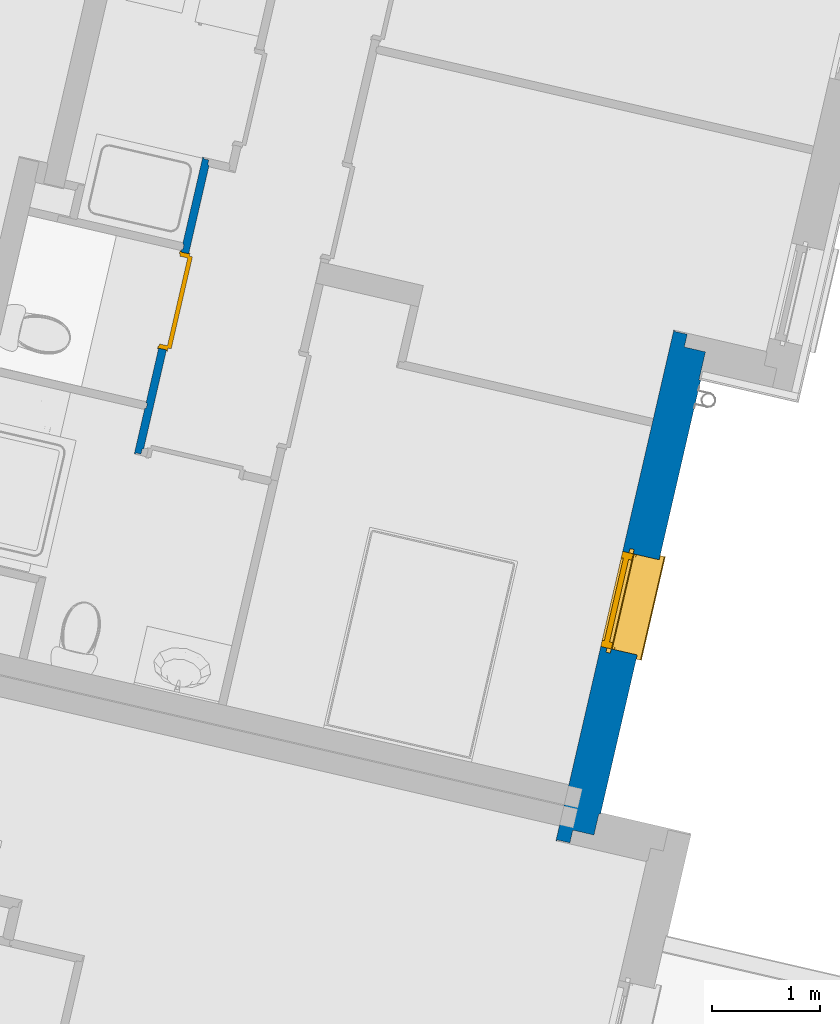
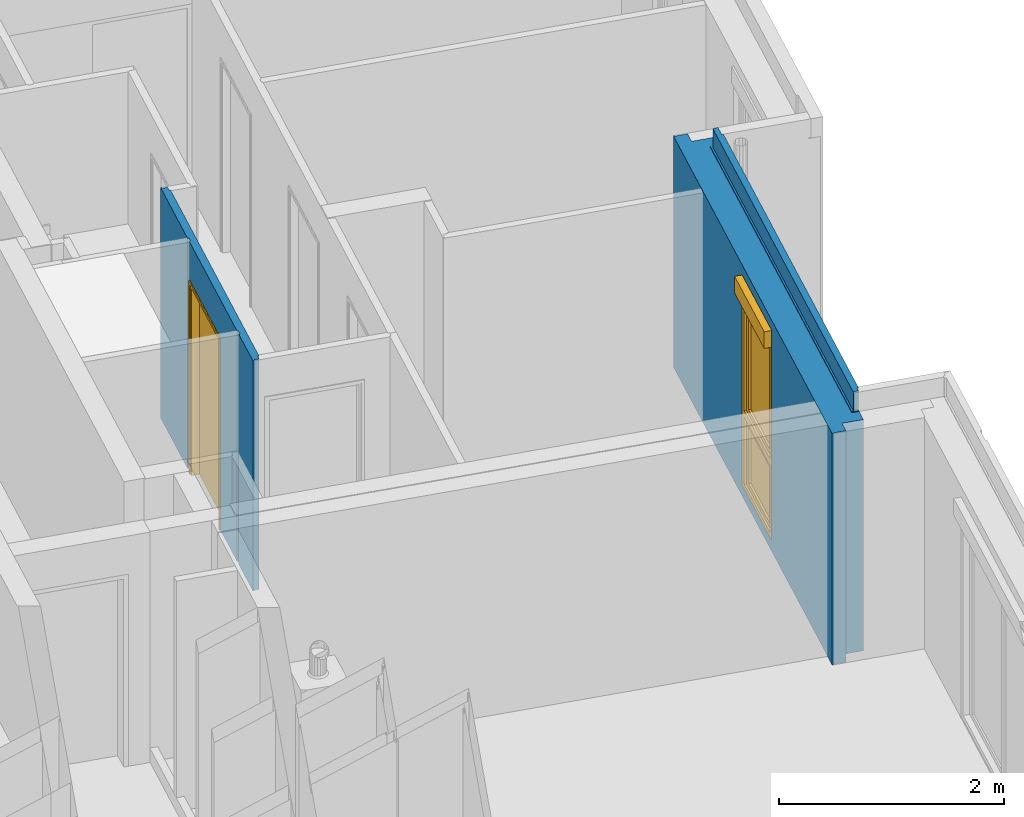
# One storey, part 27 of 91: 2 walls, 1 door, 1 window, 2 openings.
"""IFC2X3 building model written with IfcOpenShell, lengths in metres."""

from ifc_helpers import new_model, entity, si_unit, converted_unit, derived_unit, money_unit, direction, frame, origin_with_axes, place, context, subcontext, project, spatial, open_shell, faceted_brep, surface_model, source, transform, mapped, material, material_list, type_object, element, fill, save


model = new_model("IFC2X3")

# Units and contexts
model_context = context("Model", 3, precision=1e-05, world=origin_with_axes(), true_north=direction((0.0, 1.0)))
body_context = subcontext(model_context, "Body", "Model", "MODEL_VIEW")
ifc_project = project(units=[si_unit("LENGTHUNIT", "METRE"), si_unit("AREAUNIT", "SQUARE_METRE"), si_unit("VOLUMEUNIT", "CUBIC_METRE"), converted_unit("PLANEANGLEUNIT", "DEGREE", entity("IfcPlaneAngleMeasure", 0.0174532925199), si_unit("PLANEANGLEUNIT", "RADIAN"), dimensions=[0, 0, 0, 0, 0, 0, 0]), si_unit("SOLIDANGLEUNIT", "STERADIAN"), money_unit("EUR"), converted_unit("TIMEUNIT", "Year", entity("IfcTimeMeasure", 31556926.0), si_unit("TIMEUNIT", "SECOND"), dimensions=[0, 0, 1, 0, 0, 0, 0]), si_unit("MASSUNIT", "GRAM", prefix="KILO"), si_unit("THERMODYNAMICTEMPERATUREUNIT", "DEGREE_CELSIUS"), si_unit("LUMINOUSINTENSITYUNIT", "LUMEN"), si_unit("ENERGYUNIT", "JOULE", prefix="MEGA"), derived_unit("THERMALCONDUCTANCEUNIT", [(si_unit("POWERUNIT", "WATT"), 1), (si_unit("LENGTHUNIT", "METRE"), -1), (si_unit("THERMODYNAMICTEMPERATUREUNIT", "KELVIN"), -1)]), derived_unit("SPECIFICHEATCAPACITYUNIT", [(si_unit("ENERGYUNIT", "JOULE"), 1), (si_unit("MASSUNIT", "GRAM", prefix="KILO"), -1), (si_unit("THERMODYNAMICTEMPERATUREUNIT", "KELVIN"), -1)]), derived_unit("MASSDENSITYUNIT", [(si_unit("MASSUNIT", "GRAM", prefix="KILO"), 1), (si_unit("VOLUMEUNIT", "CUBIC_METRE"), -1)])], contexts=[model_context])

# Site, building, storey
site_placement = place(None, origin_with_axes())
site = spatial("IfcSite", under=ifc_project, at=site_placement, Name="Site", CompositionType="ELEMENT")
building_placement = place(site_placement, origin_with_axes())
building = spatial("IfcBuilding", under=site, at=building_placement, Name="Bâtiment", CompositionType="ELEMENT")
storey_placement = place(building_placement, frame((0.0, 0.0, 5.44), z_axis=(0.0, 0.0, 1.0), x_axis=(1.0, 0.0, 0.0)))
storey = spatial("IfcBuildingStorey", under=building, at=storey_placement, Name="R+2", CompositionType="ELEMENT", Elevation=5.44)

# Wall, opening, window
ifc_material_1 = material(Name="Finition ext - Crépis")
ifc_material_2 = material(Name="Béton cellulaire")
ifc_material_3 = material(Name="Mortier")
ifc_material_4 = material(Name="Isolation - Polystyrène expansé")
ifc_material_5 = material(Name="Bloc ELITHERM")
ifc_material_6 = material(Name="Isolation - Polystyrène extrudé")
ifc_material_7 = material(Name="Finition int - Plaque de plâtre")
ifc_material_list_1 = material_list([ifc_material_1, ifc_material_2, ifc_material_3, ifc_material_4, ifc_material_5, ifc_material_6, ifc_material_7])
wall_type_1 = type_object("IfcWallType", Name="Mur ALKERN + planelle 21 345 x 2720", PredefinedType="USERDEFINED")
wall_1_placement = place(storey_placement, frame((-1.12675166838, 6.60234837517, 0.0), z_axis=(0.0, 0.0, 1.0), x_axis=(-0.224876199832, -0.974387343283, 0.0)))
wall_1 = element("IfcWall", 1, at=wall_1_placement, inside=storey, type_object=wall_type_1, material=ifc_material_list_1, Name="Mue bloc ALKERN isolé", ObjectType="SOLIDWALL", context=body_context, shape_type="Brep", body=[
    faceted_brep([(1.73344371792, -0.0149999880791, 0.12), (1.73344371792, -0.0149999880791, 0.06), (1.73344371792, 0.0, 0.06), (1.73344371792, 0.0, 0.12), (1.73344371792, 0.0, 2.22), (1.73344371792, -0.0149999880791, 2.22), (0.0349999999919, -0.0149999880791, 0.0), (4.14099999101, -0.0149999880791, 0.0), (4.14099999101, -0.0149999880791, 2.72), (0.0349999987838, -0.0149999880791, 2.72000000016), (2.63344371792, -0.0149999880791, 2.22), (2.63344371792, -0.0149999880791, 0.12), (2.63344371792, -0.0149999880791, 0.06), (2.63344371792, 0.0, 0.06), (4.14099999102, 0.0, 0.0), (0.035, 0.0, 0.0), (0.0349999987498, 0.0, 2.72000000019), (4.14099999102, 0.0, 2.72), (2.63344371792, 0.0, 0.12), (2.63344371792, 0.0, 2.22)], [[[0, 1, 2, 3, 4, 5]], [[6, 7, 8, 9], [1, 0, 5, 10, 11, 12]], [[13, 2, 1, 12]], [[14, 15, 16, 17], [13, 18, 19, 4, 3, 2]], [[19, 10, 5, 4]], [[15, 14, 7, 6]], [[8, 7, 14, 17]], [[9, 8, 17, 16]], [[16, 15, 6, 9]], [[18, 13, 12, 11, 10, 19]]]),
    faceted_brep([(-0.0780000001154, -0.015, 2.51999998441), (-0.0780000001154, -0.015, 2.72000000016), (4.18899999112, -0.015, 2.72), (4.18899999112, -0.015, 2.51999999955), (-0.0780000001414, -0.0629999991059, 2.72000000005), (-0.0780000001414, -0.0629999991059, 2.51999998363), (4.1889999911, -0.0629999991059, 2.72), (4.1889999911, -0.0629999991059, 2.51999999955)], [[[0, 1, 2, 3]], [[4, 1, 0, 5]], [[1, 4, 6, 2]], [[3, 2, 6, 7]], [[5, 0, 3, 7]], [[4, 5, 7, 6]]]),
    faceted_brep([(-0.0980000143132, -0.015, 2.51000000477), (-0.0980000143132, -0.015, 2.51999998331), (4.2089999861, -0.015, 2.51999998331), (4.2089999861, -0.015, 2.51000000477), (-0.09800001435, -0.083, 2.51000000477), (-0.09800001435, -0.083, 2.51999998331), (4.20899998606, -0.083, 2.51999998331), (4.20899998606, -0.083, 2.51000000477)], [[[0, 1, 2, 3]], [[1, 0, 4, 5]], [[1, 5, 6, 2]], [[3, 2, 6, 7]], [[4, 0, 3, 7]], [[5, 4, 7, 6]]]),
    faceted_brep([(-0.0610619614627, -0.0630000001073, 2.51999998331), (-0.0610619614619, -0.0630000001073, 2.72), (4.20899998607, -0.0630000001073, 2.72), (4.20899998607, -0.0630000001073, 2.51999998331), (-0.0610619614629, -0.0649033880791, 2.72), (-0.0610619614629, -0.0649033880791, 2.51999998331), (4.20899998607, -0.0649033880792, 2.72), (4.20899998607, -0.0649033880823, 2.51999998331)], [[[0, 1, 2, 3]], [[4, 1, 0, 5]], [[4, 6, 2, 1]], [[6, 7, 3, 2]], [[5, 0, 3, 7]], [[6, 4, 5, 7]]]),
    faceted_brep([(1.73344371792, -0.214999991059, 0.12), (1.73344371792, -0.214999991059, 0.06), (1.73344371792, -0.015, 0.06), (1.73344371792, -0.015, 0.12), (1.73344371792, -0.015, 2.22), (1.73344371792, -0.214999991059, 2.22), (4.34100000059, -0.214999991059, 0.0), (4.34100000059, -0.214999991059, 2.51), (-0.230000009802, -0.214999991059, 2.51000000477), (-0.230000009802, -0.214999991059, 0.0), (2.63344371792, -0.214999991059, 2.22), (2.63344371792, -0.214999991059, 0.12), (2.63344371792, -0.214999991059, 0.06), (2.63344371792, -0.015, 0.06), (4.3410000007, -0.015, 2.51), (4.3410000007, -0.015, 0.0), (-0.230000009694, -0.015, 0.0), (-0.230000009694, -0.015, 2.51000000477), (2.63344371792, -0.015, 0.12), (2.63344371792, -0.015, 2.22), (4.34100000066, -0.0829999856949, 2.51), (-0.230000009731, -0.0829999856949, 2.51000000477)], [[[0, 1, 2, 3, 4, 5]], [[6, 7, 8, 9], [1, 0, 5, 10, 11, 12]], [[13, 2, 1, 12]], [[14, 15, 16, 17], [13, 18, 19, 4, 3, 2]], [[19, 10, 5, 4]], [[6, 15, 14, 20, 7]], [[7, 20, 21, 8]], [[8, 21, 17, 16, 9]], [[15, 6, 9, 16]], [[18, 13, 12, 11, 10, 19]], [[20, 14, 17, 21]]]),
    faceted_brep([(1.73344371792, -0.286, 0.12), (1.73344371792, -0.286, 0.06), (1.73344371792, -0.215000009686, 0.06), (1.73344371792, -0.215000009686, 0.12), (1.73344371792, -0.215, 2.22), (1.73344371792, -0.215, 2.4), (1.73344371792, -0.335000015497, 2.4), (1.73344371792, -0.335000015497, 2.22), (1.73344371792, -0.335000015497, 0.12), (2.63344371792, -0.286, 0.12), (2.63344371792, -0.286, 0.06), (2.63344371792, -0.215000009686, 0.06), (4.4610000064, -0.215000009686, 0.0), (-0.350000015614, -0.215000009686, 0.0), (-0.350000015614, -0.215000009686, 2.51000000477), (4.4610000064, -0.215000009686, 2.51), (2.63344371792, -0.215000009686, 0.12), (2.63344371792, -0.215, 2.22), (2.63344371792, -0.215, 2.4), (2.63344371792, -0.335000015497, 2.4), (4.46100000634, -0.335000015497, 2.51), (-0.350000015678, -0.335000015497, 2.51000000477), (-0.350000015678, -0.335000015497, 0.0), (4.46100000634, -0.335000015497, 0.0), (2.63344371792, -0.335000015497, 2.22), (2.63344371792, -0.335000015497, 0.12)], [[[0, 1, 2, 3, 4, 5, 6, 7, 8]], [[0, 9, 10, 1]], [[11, 2, 1, 10]], [[12, 13, 14, 15], [11, 16, 17, 18, 5, 4, 3, 2]], [[18, 19, 6, 5]], [[20, 21, 22, 23], [8, 7, 6, 19, 24, 25]], [[9, 0, 8, 25]], [[16, 11, 10, 9, 25, 24, 19, 18, 17]], [[23, 22, 13, 12]], [[22, 21, 14, 13]], [[15, 14, 21, 20]], [[23, 12, 15, 20]]]),
    faceted_brep([(-0.359999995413, -0.335000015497, 2.51000000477), (4.47099996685, -0.335000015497, 2.51000000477), (4.47099996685, -0.335000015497, 0.0), (-0.359999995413, -0.335000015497, 0.0), (2.63344371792, -0.335000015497, 2.22), (2.63344371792, -0.335000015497, 2.4), (1.73344371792, -0.335000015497, 2.4), (1.73344371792, -0.335000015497, 2.22), (1.73344371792, -0.335000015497, 0.12), (2.63344371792, -0.335000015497, 0.12), (-0.359999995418, -0.34499998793, 2.51000000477), (4.47099996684, -0.34499998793, 2.51000000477), (4.47099996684, -0.34499998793, 0.0), (-0.359999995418, -0.34499998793, 0.0), (2.63344371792, -0.34499998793, 2.22), (2.63344371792, -0.34499998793, 2.4), (1.73344371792, -0.34499998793, 2.4), (1.73344371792, -0.34499998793, 2.22), (1.73344371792, -0.34499998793, 0.12), (2.63344371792, -0.34499998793, 0.12)], [[[0, 1, 2, 3], [4, 5, 6, 7, 8, 9]], [[10, 11, 1, 0]], [[1, 11, 12, 2]], [[3, 2, 12, 13]], [[0, 3, 13, 10]], [[5, 4, 14, 15]], [[6, 5, 15, 16]], [[7, 6, 16, 17]], [[7, 17, 18, 8]], [[8, 18, 19, 9]], [[14, 4, 9, 19]], [[13, 12, 11, 10], [15, 14, 19, 18, 17, 16]]]),
])
opening_1_placement = place(wall_1_placement, frame((2.18344371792, 0.0, 0.12), z_axis=(0.0, 0.0, 1.0), x_axis=(1.0, 0.0, 0.0)))
opening_1 = element("IfcOpeningElement", 2, at=opening_1_placement, cuts=wall_1, Name="MEN 67", context=body_context, shape_type="Brep", body=[
    faceted_brep([(0.45, -0.83499998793, 0.0), (-0.45, -0.83499998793, 0.0), (-0.45, -0.245, 0.0), (0.45, -0.245, 0.0), (0.45, -0.83499998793, 2.1), (-0.45, -0.83499998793, 2.1), (-0.45, -0.245, 2.1), (0.45, -0.245, 2.1)], [[[0, 1, 2, 3]], [[0, 4, 5, 1]], [[1, 5, 6, 2]], [[3, 2, 6, 7]], [[4, 0, 3, 7]], [[5, 4, 7, 6]]]),
    faceted_brep([(0.45, 0.34499998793, 0.0), (0.45, 0.34499998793, 2.1), (0.45, -0.245, 2.1), (0.45, -0.245, 0.0), (-0.45, 0.34499998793, 0.0), (-0.45, 0.34499998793, 2.1), (-0.45, -0.245, 2.1), (-0.45, -0.245, 0.0)], [[[0, 1, 2, 3]], [[0, 4, 5, 1]], [[1, 5, 6, 2]], [[3, 2, 6, 7]], [[4, 0, 3, 7]], [[5, 4, 7, 6]]]),
    faceted_brep([(0.45, 0.34499998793, 0.0), (0.45, 0.34499998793, 2.1), (0.45, -0.245, 2.1), (0.45, -0.245, 0.0), (-0.45, 0.34499998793, 0.0), (-0.45, 0.34499998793, 2.1), (-0.45, -0.245, 2.1), (-0.45, -0.245, 0.0)], [[[0, 1, 2, 3]], [[0, 4, 5, 1]], [[1, 5, 6, 2]], [[3, 2, 6, 7]], [[4, 0, 3, 7]], [[5, 4, 7, 6]]]),
    faceted_brep([(0.45, -0.80499998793, 2.1), (-0.45, -0.80499998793, 2.1), (-0.45, -0.215, 2.1), (0.45, -0.215, 2.1), (0.45, -0.80499998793, 2.28), (-0.45, -0.80499998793, 2.28), (-0.45, -0.215, 2.28), (0.45, -0.215, 2.28)], [[[0, 1, 2, 3]], [[0, 4, 5, 1]], [[1, 5, 6, 2]], [[3, 2, 6, 7]], [[4, 0, 3, 7]], [[5, 4, 7, 6]]]),
    faceted_brep([(0.45, 0.30399998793, 0.0), (-0.45, 0.30399998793, 0.0), (-0.45, -0.286, 0.0), (0.45, -0.286, 0.0), (0.45, 0.30399998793, -0.06), (-0.45, 0.30399998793, -0.06), (-0.45, -0.286, -0.06), (0.45, -0.286, -0.06)], [[[0, 1, 2, 3]], [[0, 4, 5, 1]], [[1, 5, 6, 2]], [[3, 2, 6, 7]], [[4, 0, 3, 7]], [[5, 4, 7, 6]]]),
])
window_style = type_object("IfcWindowStyle", Name="Baie générique 2017 v2", ConstructionType="NOTDEFINED", OperationType="NOTDEFINED", ParameterTakesPrecedence=False, Sizeable=False)
shared_shape_1 = source(origin_with_axes(), body_context, "Body", "SurfaceModel", [
    faceted_brep([(-0.45, 0.0, 2.1), (-0.45, 0.0, 0.0), (0.45, 0.0, 0.0), (0.45, 0.0, 2.1), (0.39, 0.0, 0.85), (-0.39, 0.0, 0.85), (-0.39, 0.0, 2.05), (0.39, 0.0, 2.05), (0.39, 0.0, 0.78), (0.39, 0.0, 0.05), (-0.39, 0.0, 0.05), (-0.39, 0.0, 0.78), (-0.45, 0.1, 2.1), (-0.45, 0.1, 0.0), (0.45, 0.1, 0.0), (0.45, 0.1, 2.1), (0.39, 0.1, 0.85), (-0.39, 0.1, 0.85), (-0.39, 0.1, 2.05), (0.39, 0.1, 2.05), (0.39, 0.1, 0.78), (0.39, 0.1, 0.05), (-0.39, 0.1, 0.05), (-0.39, 0.1, 0.78)], [[[0, 1, 2, 3], [4, 5, 6, 7], [8, 9, 10, 11]], [[0, 12, 13, 1]], [[1, 13, 14, 2]], [[2, 14, 15, 3]], [[3, 15, 12, 0]], [[4, 16, 17, 5]], [[5, 17, 18, 6]], [[6, 18, 19, 7]], [[16, 4, 7, 19]], [[8, 20, 21, 9]], [[9, 21, 22, 10]], [[23, 11, 10, 22]], [[20, 8, 11, 23]], [[14, 13, 12, 15], [16, 19, 18, 17], [20, 23, 22, 21]]]),
    faceted_brep([(0.39, 0.08, 2.05), (0.39, 0.08, 0.85), (-0.39, 0.08, 0.85), (-0.39, 0.08, 2.05), (0.32, 0.08, 1.98), (-0.32, 0.08, 1.98), (-0.32, 0.08, 0.9), (0.32, 0.08, 0.9), (0.39, 0.03, 2.05), (0.39, 0.03, 0.85), (-0.39, 0.03, 0.85), (-0.39, 0.03, 2.05), (0.32, 0.03, 1.98), (-0.32, 0.03, 1.98), (-0.32, 0.03, 0.9), (0.32, 0.03, 0.9)], [[[0, 1, 2, 3], [4, 5, 6, 7]], [[1, 0, 8, 9]], [[10, 2, 1, 9]], [[11, 3, 2, 10]], [[0, 3, 11, 8]], [[5, 4, 12, 13]], [[14, 6, 5, 13]], [[15, 7, 6, 14]], [[4, 7, 15, 12]], [[11, 10, 9, 8], [15, 14, 13, 12]]]),
    surface_model("IfcShellBasedSurfaceModel", [(-0.39, 0.08, 0.85), (-0.39, 0.055, 0.85), (-0.39, 0.055, 2.05), (-0.39, 0.08, 2.05)], [open_shell([[[0, 1, 2, 3]]])]),
    surface_model("IfcShellBasedSurfaceModel", [(0.39, 0.08, 0.85), (0.39, 0.055, 0.85), (0.39, 0.055, 2.05), (0.39, 0.08, 2.05)], [open_shell([[[0, 1, 2, 3]]])]),
    surface_model("IfcShellBasedSurfaceModel", [(-0.39, 0.08, 0.85), (-0.39, 0.055, 0.85), (0.39, 0.055, 0.85), (0.39, 0.08, 0.85)], [open_shell([[[0, 1, 2, 3]]])]),
    surface_model("IfcShellBasedSurfaceModel", [(-0.39, 0.08, 2.05), (-0.39, 0.055, 2.05), (0.39, 0.055, 2.05), (0.39, 0.08, 2.05)], [open_shell([[[0, 1, 2, 3]]])]),
    surface_model("IfcShellBasedSurfaceModel", [(-0.39, 0.055, 0.85), (-0.39, 0.03, 0.85), (-0.39, 0.03, 2.05), (-0.39, 0.055, 2.05)], [open_shell([[[0, 1, 2, 3]]])]),
    surface_model("IfcShellBasedSurfaceModel", [(0.39, 0.055, 0.85), (0.39, 0.03, 0.85), (0.39, 0.03, 2.05), (0.39, 0.055, 2.05)], [open_shell([[[0, 1, 2, 3]]])]),
    surface_model("IfcShellBasedSurfaceModel", [(-0.39, 0.055, 0.85), (-0.39, 0.03, 0.85), (0.39, 0.03, 0.85), (0.39, 0.055, 0.85)], [open_shell([[[0, 1, 2, 3]]])]),
    surface_model("IfcShellBasedSurfaceModel", [(-0.39, 0.055, 2.05), (-0.39, 0.03, 2.05), (0.39, 0.03, 2.05), (0.39, 0.055, 2.05)], [open_shell([[[0, 1, 2, 3]]])]),
    faceted_brep([(-0.32, 0.0575, 0.9), (0.32, 0.0575, 0.9), (0.32, 0.0525, 0.9), (-0.32, 0.0525, 0.9), (-0.32, 0.0575, 1.98), (0.32, 0.0575, 1.98), (0.32, 0.0525, 1.98), (-0.32, 0.0525, 1.98)], [[[0, 1, 2, 3]], [[0, 4, 5, 1]], [[1, 5, 6, 2]], [[3, 2, 6, 7]], [[4, 0, 3, 7]], [[5, 4, 7, 6]]]),
    faceted_brep([(0.39, 0.08, 0.78), (0.39, 0.08, 0.05), (-0.39, 0.08, 0.05), (-0.39, 0.08, 0.78), (0.32, 0.08, 0.71), (-0.32, 0.08, 0.71), (-0.32, 0.08, 0.1), (0.32, 0.08, 0.1), (0.39, 0.03, 0.78), (0.39, 0.03, 0.05), (-0.39, 0.03, 0.05), (-0.39, 0.03, 0.78), (0.32, 0.03, 0.71), (-0.32, 0.03, 0.71), (-0.32, 0.03, 0.1), (0.32, 0.03, 0.1)], [[[0, 1, 2, 3], [4, 5, 6, 7]], [[1, 0, 8, 9]], [[10, 2, 1, 9]], [[11, 3, 2, 10]], [[0, 3, 11, 8]], [[5, 4, 12, 13]], [[14, 6, 5, 13]], [[15, 7, 6, 14]], [[4, 7, 15, 12]], [[11, 10, 9, 8], [15, 14, 13, 12]]]),
    surface_model("IfcShellBasedSurfaceModel", [(-0.39, 0.08, 0.05), (-0.39, 0.055, 0.05), (-0.39, 0.055, 0.78), (-0.39, 0.08, 0.78)], [open_shell([[[0, 1, 2, 3]]])]),
    surface_model("IfcShellBasedSurfaceModel", [(0.39, 0.08, 0.05), (0.39, 0.055, 0.05), (0.39, 0.055, 0.78), (0.39, 0.08, 0.78)], [open_shell([[[0, 1, 2, 3]]])]),
    surface_model("IfcShellBasedSurfaceModel", [(-0.39, 0.08, 0.05), (-0.39, 0.055, 0.05), (0.39, 0.055, 0.05), (0.39, 0.08, 0.05)], [open_shell([[[0, 1, 2, 3]]])]),
    surface_model("IfcShellBasedSurfaceModel", [(-0.39, 0.08, 0.78), (-0.39, 0.055, 0.78), (0.39, 0.055, 0.78), (0.39, 0.08, 0.78)], [open_shell([[[0, 1, 2, 3]]])]),
    surface_model("IfcShellBasedSurfaceModel", [(-0.39, 0.055, 0.05), (-0.39, 0.03, 0.05), (-0.39, 0.03, 0.78), (-0.39, 0.055, 0.78)], [open_shell([[[0, 1, 2, 3]]])]),
    surface_model("IfcShellBasedSurfaceModel", [(0.39, 0.055, 0.05), (0.39, 0.03, 0.05), (0.39, 0.03, 0.78), (0.39, 0.055, 0.78)], [open_shell([[[0, 1, 2, 3]]])]),
    surface_model("IfcShellBasedSurfaceModel", [(-0.39, 0.055, 0.05), (-0.39, 0.03, 0.05), (0.39, 0.03, 0.05), (0.39, 0.055, 0.05)], [open_shell([[[0, 1, 2, 3]]])]),
    surface_model("IfcShellBasedSurfaceModel", [(-0.39, 0.055, 0.78), (-0.39, 0.03, 0.78), (0.39, 0.03, 0.78), (0.39, 0.055, 0.78)], [open_shell([[[0, 1, 2, 3]]])]),
    faceted_brep([(-0.32, 0.0575, 0.1), (0.32, 0.0575, 0.1), (0.32, 0.0525, 0.1), (-0.32, 0.0525, 0.1), (-0.32, 0.0575, 0.71), (0.32, 0.0575, 0.71), (0.32, 0.0525, 0.71), (-0.32, 0.0525, 0.71)], [[[0, 1, 2, 3]], [[0, 4, 5, 1]], [[1, 5, 6, 2]], [[3, 2, 6, 7]], [[4, 0, 3, 7]], [[5, 4, 7, 6]]]),
    faceted_brep([(-0.45, -0.03, 0.0), (-0.425, -0.03, 0.0), (-0.425, -0.03, 2.1), (-0.45, -0.03, 2.1), (-0.45, -0.002, 0.0), (-0.425, -0.002, 0.0), (-0.425, -0.004, 0.0), (-0.448, -0.004, 0.0), (-0.448, -0.028, 0.0), (-0.425, -0.028, 0.0), (-0.425, -0.028, 2.1), (-0.448, -0.028, 2.1), (-0.448, -0.004, 2.1), (-0.425, -0.004, 2.1), (-0.425, -0.002, 2.1), (-0.45, -0.002, 2.1)], [[[0, 1, 2, 3]], [[0, 4, 5, 6, 7, 8, 9, 1]], [[1, 9, 10, 2]], [[3, 2, 10, 11, 12, 13, 14, 15]], [[4, 0, 3, 15]], [[5, 4, 15, 14]], [[6, 5, 14, 13]], [[7, 6, 13, 12]], [[8, 7, 12, 11]], [[9, 8, 11, 10]]]),
    faceted_brep([(0.45, -0.03, 0.0), (0.45, -0.03, 2.1), (0.425, -0.03, 2.1), (0.425, -0.03, 0.0), (0.45, -0.002, 0.0), (0.45, -0.002, 2.1), (0.425, -0.002, 2.1), (0.425, -0.004, 2.1), (0.448, -0.004, 2.1), (0.448, -0.028, 2.1), (0.425, -0.028, 2.1), (0.425, -0.028, 0.0), (0.448, -0.028, 0.0), (0.448, -0.004, 0.0), (0.425, -0.004, 0.0), (0.425, -0.002, 0.0)], [[[0, 1, 2, 3]], [[4, 5, 1, 0]], [[1, 5, 6, 7, 8, 9, 10, 2]], [[3, 2, 10, 11]], [[0, 3, 11, 12, 13, 14, 15, 4]], [[15, 6, 5, 4]], [[14, 7, 6, 15]], [[13, 8, 7, 14]], [[12, 9, 8, 13]], [[11, 10, 9, 12]]]),
    faceted_brep([(0.448, -0.028, 2.1), (-0.448, -0.028, 2.1), (-0.448, -0.028, 2.278), (0.448, -0.028, 2.278), (0.448, -0.03, 2.1), (-0.448, -0.03, 2.1), (-0.448, -0.03, 2.28), (-0.448, 0.17, 2.28), (-0.448, 0.17, 2.1), (-0.448, 0.168, 2.1), (-0.448, 0.168, 2.278), (0.448, 0.168, 2.278), (0.448, 0.168, 2.1), (0.448, 0.17, 2.1), (0.448, 0.17, 2.28), (0.448, -0.03, 2.28)], [[[0, 1, 2, 3]], [[4, 5, 1, 0]], [[1, 5, 6, 7, 8, 9, 10, 2]], [[3, 2, 10, 11]], [[0, 3, 11, 12, 13, 14, 15, 4]], [[15, 6, 5, 4]], [[14, 7, 6, 15]], [[13, 8, 7, 14]], [[12, 9, 8, 13]], [[11, 10, 9, 12]]]),
    faceted_brep([(0.448, 0.0724697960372, 2.17436337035), (0.448, 0.08, 2.19), (0.448, 0.0724697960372, 2.20563662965), (0.448, 0.0555495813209, 2.20949855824), (0.448, 0.041980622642, 2.19867767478), (0.448, 0.041980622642, 2.18132232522), (0.448, 0.0555495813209, 2.17050144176), (-0.448, 0.0724697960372, 2.17436337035), (-0.448, 0.08, 2.19), (-0.448, 0.0724697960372, 2.20563662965), (-0.448, 0.0555495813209, 2.20949855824), (-0.448, 0.041980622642, 2.19867767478), (-0.448, 0.041980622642, 2.18132232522), (-0.448, 0.0555495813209, 2.17050144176)], [[[0, 1, 2, 3, 4, 5, 6]], [[0, 7, 8, 1]], [[1, 8, 9, 2]], [[2, 9, 10, 3]], [[3, 10, 11, 4]], [[4, 11, 12, 5]], [[5, 12, 13, 6]], [[6, 13, 7, 0]], [[7, 13, 12, 11, 10, 9, 8]]]),
    faceted_brep([(0.438, 0.130275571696, 2.15615706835), (0.438, 0.138, 2.19), (0.438, 0.130275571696, 2.22384293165), (0.438, 0.108632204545, 2.25098285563), (0.438, 0.0773566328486, 2.26604437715), (0.438, 0.0426433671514, 2.26604437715), (0.438, 0.011367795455, 2.25098285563), (0.438, -0.0102755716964, 2.22384293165), (0.438, -0.018, 2.19), (0.438, -0.0102755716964, 2.15615706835), (0.438, 0.011367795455, 2.12901714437), (0.438, 0.0426433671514, 2.11395562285), (0.438, 0.0773566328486, 2.11395562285), (0.438, 0.108632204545, 2.12901714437), (-0.438, 0.130275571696, 2.15615706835), (-0.438, 0.138, 2.19), (-0.438, 0.130275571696, 2.22384293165), (-0.438, 0.108632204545, 2.25098285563), (-0.438, 0.0773566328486, 2.26604437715), (-0.438, 0.0426433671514, 2.26604437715), (-0.438, 0.011367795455, 2.25098285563), (-0.438, -0.0102755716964, 2.22384293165), (-0.438, -0.018, 2.19), (-0.438, -0.0102755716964, 2.15615706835), (-0.438, 0.011367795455, 2.12901714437), (-0.438, 0.0426433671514, 2.11395562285), (-0.438, 0.0773566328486, 2.11395562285), (-0.438, 0.108632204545, 2.12901714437)], [[[0, 1, 2, 3, 4, 5, 6, 7, 8, 9, 10, 11, 12, 13]], [[0, 14, 15, 1]], [[1, 15, 16, 2]], [[2, 16, 17, 3]], [[3, 17, 18, 4]], [[4, 18, 19, 5]], [[5, 19, 20, 6]], [[6, 20, 21, 7]], [[7, 21, 22, 8]], [[8, 22, 23, 9]], [[9, 23, 24, 10]], [[10, 24, 25, 11]], [[11, 25, 26, 12]], [[12, 26, 27, 13]], [[13, 27, 14, 0]], [[14, 27, 26, 25, 24, 23, 22, 21, 20, 19, 18, 17, 16, 15]]]),
    faceted_brep([(0.45, 0.17, 2.1), (0.448, 0.17, 2.1), (0.448, 0.17, 2.28), (0.45, 0.17, 2.28), (0.45, -0.03, 2.1), (0.448, -0.03, 2.1), (0.448, -0.03, 2.28), (0.45, -0.03, 2.28)], [[[0, 1, 2, 3]], [[4, 5, 1, 0]], [[1, 5, 6, 2]], [[3, 2, 6, 7]], [[0, 3, 7, 4]], [[7, 6, 5, 4]]]),
    faceted_brep([(-0.448, 0.17, 2.1), (-0.45, 0.17, 2.1), (-0.45, 0.17, 2.28), (-0.448, 0.17, 2.28), (-0.448, -0.03, 2.1), (-0.45, -0.03, 2.1), (-0.45, -0.03, 2.28), (-0.448, -0.03, 2.28)], [[[0, 1, 2, 3]], [[4, 5, 1, 0]], [[1, 5, 6, 2]], [[3, 2, 6, 7]], [[0, 3, 7, 4]], [[7, 6, 5, 4]]]),
    faceted_brep([(0.448, -0.004, 2.1), (-0.448, -0.004, 2.1), (-0.448, 0.168, 2.1), (0.448, 0.168, 2.1), (0.448, -0.004, 2.102), (-0.448, -0.004, 2.102), (-0.448, 0.168, 2.102), (0.448, 0.168, 2.102)], [[[0, 1, 2, 3]], [[4, 5, 1, 0]], [[1, 5, 6, 2]], [[3, 2, 6, 7]], [[0, 3, 7, 4]], [[7, 6, 5, 4]]]),
    faceted_brep([(-0.438, -0.006, 2.1), (-0.438, -0.006, 2.19), (0.438, -0.006, 2.19), (0.438, -0.006, 2.1), (-0.438, -0.026, 2.1), (-0.438, -0.026, 2.19), (0.438, -0.026, 2.19), (0.438, -0.026, 2.1)], [[[0, 1, 2, 3]], [[1, 0, 4, 5]], [[2, 1, 5, 6]], [[3, 2, 6, 7]], [[4, 0, 3, 7]], [[5, 4, 7, 6]]]),
    faceted_brep([(0.45, -0.00167949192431, -0.01), (0.45, 0.0, -0.00373205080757), (0.49, 0.0, -0.00373205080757), (0.49, 0.001, 0.0), (-0.49, 0.001, 0.0), (-0.49, 0.0, -0.00373205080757), (-0.45, 0.0, -0.00373205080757), (-0.45, -0.00167949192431, -0.01), (0.45, -0.009, -0.0173205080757), (0.45, -0.019, -0.02), (0.45, -0.245, -0.02), (0.45, -0.245, -0.06), (0.45, 0.0, -0.06), (0.49, 0.0, -0.06), (0.49, 0.041, -0.06), (0.49, 0.041, 0.0), (-0.49, 0.041, 0.0), (-0.49, 0.041, -0.06), (-0.49, 0.0, -0.06), (-0.45, 0.0, -0.06), (-0.45, -0.245, -0.02), (-0.45, -0.019, -0.02), (-0.45, -0.009, -0.0173205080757), (-0.45, -0.245, -0.06), (-0.49, -0.245, -0.02), (-0.49, -0.285, -0.02), (0.49, -0.285, -0.02), (0.49, -0.245, -0.02), (0.49, -0.245, -0.06), (0.49, -0.275, -0.06), (-0.49, -0.275, -0.06), (-0.49, -0.245, -0.06), (-0.49, -0.295, -0.03), (-0.49, -0.292071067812, -0.0229289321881), (-0.49, -0.275, -0.05), (-0.49, -0.285, -0.05), (-0.49, -0.285, -0.06), (-0.49, -0.295, -0.06), (0.49, -0.292071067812, -0.0229289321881), (0.49, -0.295, -0.03), (0.49, -0.295, -0.06), (0.49, -0.285, -0.06), (0.49, -0.285, -0.05), (0.49, -0.275, -0.05)], [[[0, 1, 2, 3, 4, 5, 6, 7]], [[1, 0, 8, 9, 10, 11, 12]], [[13, 2, 1, 12]], [[2, 13, 14, 15, 3]], [[16, 4, 3, 15]], [[4, 16, 17, 18, 5]], [[5, 18, 19, 6]], [[20, 21, 22, 7, 6, 19, 23]], [[8, 0, 7, 22]], [[9, 8, 22, 21]], [[10, 9, 21, 20, 24, 25, 26, 27]], [[10, 27, 28, 11]], [[11, 28, 29, 30, 31, 23, 19, 18, 17, 14, 13, 12]], [[17, 16, 15, 14]], [[20, 23, 31, 24]], [[32, 33, 25, 24, 31, 30, 34, 35, 36, 37]], [[25, 33, 38, 26]], [[28, 27, 26, 38, 39, 40, 41, 42, 43, 29]], [[34, 30, 29, 43]], [[33, 32, 39, 38]], [[35, 34, 43, 42]], [[36, 35, 42, 41]], [[37, 36, 41, 40]], [[32, 37, 40, 39]]]),
])
window_placement = place(opening_1_placement, frame((0.45, 0.0, 0.0), z_axis=(0.0, 0.0, 1.0), x_axis=(-1.0, 0.0, 0.0)))
window = element("IfcWindow", 3, at=window_placement, inside=storey, type_object=window_style, Name="MEN 67", ObjectType="WINDOW", OverallHeight=2.1, OverallWidth=0.9, context=body_context, shape_type="MappedRepresentation", body=[
    mapped(shared_shape_1, transform((0.45, 0.245, 0.0))),
])
fill(opening_1, window)

# Wall, opening, door
ifc_material_8 = material(Name="Isolation - Laine de roche")
ifc_material_list_2 = material_list([ifc_material_7, ifc_material_8, ifc_material_7])
wall_type_2 = type_object("IfcWallType", Name="3 - Cloison 72mm Placostil 74", PredefinedType="USERDEFINED")
wall_2_placement = place(storey_placement, frame((-6.26656310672, 5.94431568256, 0.0), z_axis=(0.0, 0.0, 1.0), x_axis=(0.224876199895, 0.974387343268, 0.0)))
wall_2 = element("IfcWall", 4, at=wall_2_placement, inside=storey, type_object=wall_type_2, material=ifc_material_list_2, Name="Cloison Placostil 72/48", ObjectType="PARTITIONING", context=body_context, shape_type="Brep", body=[
    faceted_brep([(2.73399997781, 0.074, 0.0), (2.73399997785, 0.061, 0.0), (1.9109999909, 0.061, 0.0), (1.9109999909, 0.074, 0.0), (2.73399997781, 0.074, 2.5), (2.73399997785, 0.061, 2.5), (1.9109999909, 0.061, 2.5), (1.9109999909, 0.074, 2.5)], [[[0, 1, 2, 3]], [[1, 0, 4, 5]], [[1, 5, 6, 2]], [[7, 3, 2, 6]], [[4, 0, 3, 7]], [[5, 4, 7, 6]]]),
    faceted_brep([(0.359475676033, 0.074, 0.0), (0.359475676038, 0.061, 0.0), (-0.0740000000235, 0.061, 0.0), (-0.0740000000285, 0.074, 0.0), (0.359475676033, 0.074, 2.5), (0.359475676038, 0.061, 2.5), (-0.0740000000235, 0.061, 2.5), (-0.0740000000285, 0.074, 2.5)], [[[0, 1, 2, 3]], [[1, 0, 4, 5]], [[1, 5, 6, 2]], [[7, 3, 2, 6]], [[4, 0, 3, 7]], [[5, 4, 7, 6]]]),
    faceted_brep([(0.926911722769, 0.061, 0.0), (0.926911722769, 0.061, 2.08), (1.83691172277, 0.061, 2.08), (1.83691172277, 0.061, 0.0), (1.8629999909, 0.061, 0.0), (1.8629999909, 0.061, 2.5), (0.407475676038, 0.061, 2.5), (0.407475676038, 0.061, 0.0), (0.926911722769, 0.074, 0.0), (0.926911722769, 0.074, 2.08), (1.83691172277, 0.074, 2.08), (1.83691172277, 0.074, 0.0), (1.8629999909, 0.074, 0.0), (1.8629999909, 0.074, 2.5), (0.407475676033, 0.074, 2.5), (0.407475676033, 0.074, 0.0)], [[[0, 1, 2, 3, 4, 5, 6, 7]], [[1, 0, 8, 9]], [[2, 1, 9, 10]], [[3, 2, 10, 11]], [[3, 11, 12, 4]], [[12, 13, 5, 4]], [[13, 14, 6, 5]], [[15, 7, 6, 14]], [[8, 0, 7, 15]], [[9, 8, 15, 14, 13, 12, 11, 10]]]),
    faceted_brep([(0.926911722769, 0.013, 0.0), (0.926911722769, 0.013, 2.08), (1.83691172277, 0.013, 2.08), (1.83691172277, 0.013, 0.0), (2.72099997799, 0.013, 0.0), (2.72099997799, 0.013, 2.5), (-0.061000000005, 0.013, 2.5), (-0.061000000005, 0.013, 0.0), (0.926911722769, 0.061, 0.0), (0.926911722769, 0.061, 2.08), (1.83691172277, 0.061, 2.08), (1.83691172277, 0.061, 0.0), (2.72099997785, 0.061, 0.0), (2.72099997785, 0.061, 2.5), (-0.0610000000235, 0.061, 2.5), (-0.0610000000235, 0.061, 0.0)], [[[0, 1, 2, 3, 4, 5, 6, 7]], [[1, 0, 8, 9]], [[2, 1, 9, 10]], [[3, 2, 10, 11]], [[3, 11, 12, 4]], [[12, 13, 5, 4]], [[13, 14, 6, 5]], [[15, 7, 6, 14]], [[8, 0, 7, 15]], [[9, 8, 15, 14, 13, 12, 11, 10]]]),
    faceted_brep([(0.926911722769, 0.0, 0.0), (0.926911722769, 0.0, 2.08), (1.83691172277, 0.0, 2.08), (1.83691172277, 0.0, 0.0), (2.67299997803, 0.0, 0.0), (2.67299997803, 0.0, 2.5), (-0.013, 0.0, 2.5), (-0.013, 0.0, 0.0), (0.926911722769, 0.013, 0.0), (0.926911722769, 0.013, 2.08), (1.83691172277, 0.013, 2.08), (1.83691172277, 0.013, 0.0), (2.67299997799, 0.013, 0.0), (2.67299997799, 0.013, 2.5), (-0.013000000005, 0.013, 2.5), (-0.013000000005, 0.013, 0.0)], [[[0, 1, 2, 3, 4, 5, 6, 7]], [[1, 0, 8, 9]], [[2, 1, 9, 10]], [[3, 2, 10, 11]], [[3, 11, 12, 4]], [[12, 13, 5, 4]], [[13, 14, 6, 5]], [[15, 7, 6, 14]], [[8, 0, 7, 15]], [[9, 8, 15, 14, 13, 12, 11, 10]]]),
])
opening_2_placement = place(wall_2_placement, frame((1.38191172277, 0.0, 0.0), z_axis=(0.0, 0.0, 1.0), x_axis=(1.0, 0.0, 0.0)))
opening_2 = element("IfcOpeningElement", 5, at=opening_2_placement, cuts=wall_2, Name="Porte 83x204 bois alvéolaire", context=body_context, shape_type="Brep", body=[
    faceted_brep([(-0.455, 0.074, 0.0), (0.455, 0.074, 0.0), (0.455, -0.074, 0.0), (-0.455, -0.074, 0.0), (-0.455, 0.074, 2.08), (0.455, 0.074, 2.08), (0.455, -0.074, 2.08), (-0.455, -0.074, 2.08)], [[[0, 1, 2, 3]], [[0, 4, 5, 1]], [[1, 5, 6, 2]], [[3, 2, 6, 7]], [[4, 0, 3, 7]], [[5, 4, 7, 6]]]),
])
door_style = type_object("IfcDoorStyle", Name="Porte int générique 2019", ConstructionType="NOTDEFINED", OperationType="SINGLE_SWING_RIGHT", ParameterTakesPrecedence=False, Sizeable=False)
shared_shape_2 = source(origin_with_axes(), body_context, "Body", "Brep", [
    faceted_brep([(0.455, 0.0, 0.0), (0.415, 0.0, 0.0), (0.415, 0.0, 2.04), (-0.415, 0.0, 2.04), (-0.415, 0.0, 0.0), (-0.455, 0.0, 0.0), (-0.455, 0.0, 2.08), (0.455, 0.0, 2.08), (0.455, -0.074, 0.0), (0.415, -0.074, 0.0), (0.415, -0.074, 2.04), (-0.415, -0.074, 2.04), (-0.415, -0.074, 0.0), (-0.455, -0.074, 0.0), (-0.455, -0.074, 2.08), (0.455, -0.074, 2.08)], [[[0, 1, 2, 3, 4, 5, 6, 7]], [[0, 8, 9, 1]], [[1, 9, 10, 2]], [[2, 10, 11, 3]], [[3, 11, 12, 4]], [[5, 4, 12, 13]], [[14, 6, 5, 13]], [[15, 7, 6, 14]], [[8, 0, 7, 15]], [[9, 8, 15, 14, 13, 12, 11, 10]]]),
    faceted_brep([(0.465, 0.0, 0.0), (0.465, 0.01, 0.0), (0.465, 0.01, 2.09), (0.465, 0.0, 2.09), (0.435, 0.0, 0.0), (0.435, 0.01, 0.0), (0.435, 0.01, 2.06), (-0.435, 0.01, 2.06), (-0.435, 0.01, 0.0), (-0.465, 0.01, 0.0), (-0.465, 0.01, 2.09), (-0.465, 0.0, 2.09), (-0.465, 0.0, 0.0), (-0.435, 0.0, 0.0), (-0.435, 0.0, 2.06), (0.435, 0.0, 2.06)], [[[0, 1, 2, 3]], [[0, 4, 5, 1]], [[1, 5, 6, 7, 8, 9, 10, 2]], [[3, 2, 10, 11]], [[4, 0, 3, 11, 12, 13, 14, 15]], [[5, 4, 15, 6]], [[6, 15, 14, 7]], [[7, 14, 13, 8]], [[12, 9, 8, 13]], [[11, 10, 9, 12]]]),
    faceted_brep([(0.465, -0.084, 0.0), (0.465, -0.074, 0.0), (0.465, -0.074, 2.09), (0.465, -0.084, 2.09), (0.435, -0.084, 0.0), (0.435, -0.074, 0.0), (0.435, -0.074, 2.06), (-0.435, -0.074, 2.06), (-0.435, -0.074, 0.0), (-0.465, -0.074, 0.0), (-0.465, -0.074, 2.09), (-0.465, -0.084, 2.09), (-0.465, -0.084, 0.0), (-0.435, -0.084, 0.0), (-0.435, -0.084, 2.06), (0.435, -0.084, 2.06)], [[[0, 1, 2, 3]], [[0, 4, 5, 1]], [[1, 5, 6, 7, 8, 9, 10, 2]], [[3, 2, 10, 11]], [[4, 0, 3, 11, 12, 13, 14, 15]], [[5, 4, 15, 6]], [[6, 15, 14, 7]], [[7, 14, 13, 8]], [[12, 9, 8, 13]], [[11, 10, 9, 12]]]),
    faceted_brep([(0.435, 0.04, 0.0), (0.435, 0.0, 0.0), (-0.435, 0.0, 0.0), (-0.435, 0.04, 0.0), (0.435, 0.04, 2.06), (0.435, 0.0, 2.06), (-0.435, 0.0, 2.06), (-0.435, 0.04, 2.06)], [[[0, 1, 2, 3]], [[4, 5, 1, 0]], [[1, 5, 6, 2]], [[3, 2, 6, 7]], [[0, 3, 7, 4]], [[7, 6, 5, 4]]]),
])
door_placement = place(opening_2_placement, frame((0.415, 0.0, 0.0), z_axis=(0.0, 0.0, 1.0), x_axis=(-1.0, 0.0, 0.0)))
door = element("IfcDoor", 6, at=door_placement, inside=storey, type_object=door_style, Name="Porte 83x204 bois alvéolaire", ObjectType="DOOR", OverallHeight=2.04, OverallWidth=0.83, context=body_context, shape_type="MappedRepresentation", body=[
    mapped(shared_shape_2, transform((0.415, 0.0, 0.0))),
])
fill(opening_2, door)

save(model, "model.ifc")
